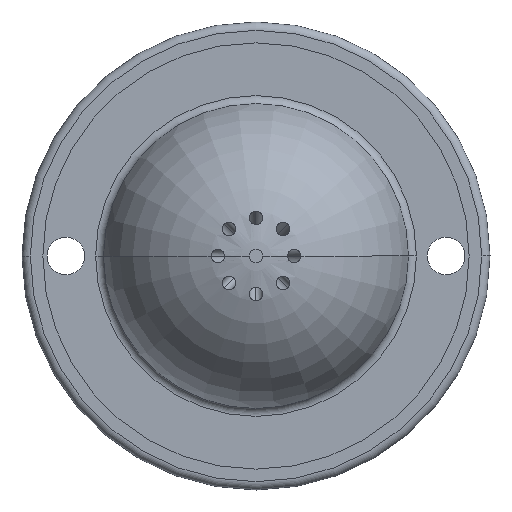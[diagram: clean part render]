
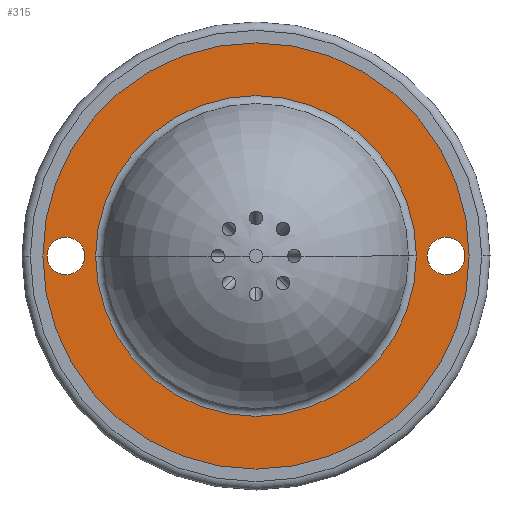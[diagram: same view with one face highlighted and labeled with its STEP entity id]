
A CAD part, front view. The second image highlights one B-rep face of the part: STEP entity #315.
In plain terms, the highlighted planar face has unit normal (0, -1, 0).
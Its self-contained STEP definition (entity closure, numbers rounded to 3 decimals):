
#21 = FACE_OUTER_BOUND ( 'NONE', #656, .T. ) ;
#24 = VERTEX_POINT ( 'NONE', #1108 ) ;
#68 = CIRCLE ( 'NONE', #421, 19.189 ) ;
#73 = VERTEX_POINT ( 'NONE', #370 ) ;
#76 = EDGE_CURVE ( 'NONE', #24, #894, #647, .T. ) ;
#77 = CARTESIAN_POINT ( 'NONE',  ( -19.189, 0.6, 0. ) ) ;
#85 = CIRCLE ( 'NONE', #963, 25.5 ) ;
#127 = EDGE_LOOP ( 'NONE', ( #857, #1448 ) ) ;
#146 = VERTEX_POINT ( 'NONE', #231 ) ;
#166 = DIRECTION ( 'NONE',  ( 0., 1., 0. ) ) ;
#171 = ORIENTED_EDGE ( 'NONE', *, *, #76, .T. ) ;
#202 = CARTESIAN_POINT ( 'NONE',  ( 22.75, 0.6, -2.25 ) ) ;
#231 = CARTESIAN_POINT ( 'NONE',  ( -25.5, 0.6, 0. ) ) ;
#233 = DIRECTION ( 'NONE',  ( 1., 0., 0. ) ) ;
#253 = CARTESIAN_POINT ( 'NONE',  ( 0., 0.6, 0. ) ) ;
#261 = ORIENTED_EDGE ( 'NONE', *, *, #620, .T. ) ;
#315 = ADVANCED_FACE ( 'NONE', ( #752, #343, #1436, #21 ), #1190, .T. ) ;
#343 = FACE_BOUND ( 'NONE', #1300, .T. ) ;
#351 = DIRECTION ( 'NONE',  ( 0., -1., 0. ) ) ;
#356 = DIRECTION ( 'NONE',  ( 1., 0., 0. ) ) ;
#366 = CIRCLE ( 'NONE', #494, 19.189 ) ;
#370 = CARTESIAN_POINT ( 'NONE',  ( -22.75, 0.6, 2.25 ) ) ;
#390 = DIRECTION ( 'NONE',  ( -1., 0., 0. ) ) ;
#421 = AXIS2_PLACEMENT_3D ( 'NONE', #1433, #619, #1576 ) ;
#422 = CARTESIAN_POINT ( 'NONE',  ( 22.75, 0.6, 0. ) ) ;
#433 = AXIS2_PLACEMENT_3D ( 'NONE', #1548, #728, #1681 ) ;
#494 = AXIS2_PLACEMENT_3D ( 'NONE', #253, #1222, #390 ) ;
#498 = ORIENTED_EDGE ( 'NONE', *, *, #756, .F. ) ;
#557 = CIRCLE ( 'NONE', #1207, 2.25 ) ;
#560 = DIRECTION ( 'NONE',  ( 1., 0., 0. ) ) ;
#584 = VERTEX_POINT ( 'NONE', #1101 ) ;
#594 = CARTESIAN_POINT ( 'NONE',  ( 0., 0.6, 0. ) ) ;
#619 = DIRECTION ( 'NONE',  ( 0., 1., 0. ) ) ;
#620 = EDGE_CURVE ( 'NONE', #894, #24, #1729, .T. ) ;
#623 = DIRECTION ( 'NONE',  ( 0., 1., 0. ) ) ;
#647 = CIRCLE ( 'NONE', #1454, 2.25 ) ;
#656 = EDGE_LOOP ( 'NONE', ( #498, #896 ) ) ;
#670 = EDGE_LOOP ( 'NONE', ( #875, #1480 ) ) ;
#691 = VERTEX_POINT ( 'NONE', #988 ) ;
#709 = DIRECTION ( 'NONE',  ( 0., 1., 0. ) ) ;
#728 = DIRECTION ( 'NONE',  ( 0., 1., 0. ) ) ;
#732 = DIRECTION ( 'NONE',  ( -1., 0., 0. ) ) ;
#752 = FACE_BOUND ( 'NONE', #127, .T. ) ;
#756 = EDGE_CURVE ( 'NONE', #146, #691, #1244, .T. ) ;
#857 = ORIENTED_EDGE ( 'NONE', *, *, #1221, .T. ) ;
#875 = ORIENTED_EDGE ( 'NONE', *, *, #1023, .T. ) ;
#894 = VERTEX_POINT ( 'NONE', #202 ) ;
#896 = ORIENTED_EDGE ( 'NONE', *, *, #1615, .F. ) ;
#963 = AXIS2_PLACEMENT_3D ( 'NONE', #594, #1552, #732 ) ;
#988 = CARTESIAN_POINT ( 'NONE',  ( 25.5, 0.6, 0. ) ) ;
#994 = CARTESIAN_POINT ( 'NONE',  ( -22.75, 0.6, 0. ) ) ;
#1023 = EDGE_CURVE ( 'NONE', #584, #1591, #366, .T. ) ;
#1101 = CARTESIAN_POINT ( 'NONE',  ( -19.189, 0.6, 0. ) ) ;
#1108 = CARTESIAN_POINT ( 'NONE',  ( 22.75, 0.6, 2.25 ) ) ;
#1135 = DIRECTION ( 'NONE',  ( 1., 0., 0. ) ) ;
#1142 = CARTESIAN_POINT ( 'NONE',  ( 19.189, 0.6, 0. ) ) ;
#1167 = EDGE_CURVE ( 'NONE', #1262, #73, #1648, .T. ) ;
#1190 = PLANE ( 'NONE',  #1422 ) ;
#1207 = AXIS2_PLACEMENT_3D ( 'NONE', #994, #166, #1135 ) ;
#1221 = EDGE_CURVE ( 'NONE', #73, #1262, #557, .T. ) ;
#1222 = DIRECTION ( 'NONE',  ( 0., 1., 0. ) ) ;
#1244 = CIRCLE ( 'NONE', #433, 25.5 ) ;
#1262 = VERTEX_POINT ( 'NONE', #1546 ) ;
#1300 = EDGE_LOOP ( 'NONE', ( #171, #261 ) ) ;
#1303 = AXIS2_PLACEMENT_3D ( 'NONE', #422, #1381, #560 ) ;
#1325 = EDGE_CURVE ( 'NONE', #1591, #584, #68, .T. ) ;
#1326 = AXIS2_PLACEMENT_3D ( 'NONE', #1524, #709, #1662 ) ;
#1381 = DIRECTION ( 'NONE',  ( 0., 1., 0. ) ) ;
#1422 = AXIS2_PLACEMENT_3D ( 'NONE', #77, #351, #356 ) ;
#1433 = CARTESIAN_POINT ( 'NONE',  ( 0., 0.6, 0. ) ) ;
#1436 = FACE_BOUND ( 'NONE', #670, .T. ) ;
#1437 = CARTESIAN_POINT ( 'NONE',  ( 22.75, 0.6, 0. ) ) ;
#1448 = ORIENTED_EDGE ( 'NONE', *, *, #1167, .T. ) ;
#1454 = AXIS2_PLACEMENT_3D ( 'NONE', #1437, #623, #233 ) ;
#1480 = ORIENTED_EDGE ( 'NONE', *, *, #1325, .T. ) ;
#1524 = CARTESIAN_POINT ( 'NONE',  ( -22.75, 0.6, 0. ) ) ;
#1546 = CARTESIAN_POINT ( 'NONE',  ( -22.75, 0.6, -2.25 ) ) ;
#1548 = CARTESIAN_POINT ( 'NONE',  ( 0., 0.6, 0. ) ) ;
#1552 = DIRECTION ( 'NONE',  ( 0., 1., 0. ) ) ;
#1576 = DIRECTION ( 'NONE',  ( -1., 0., 0. ) ) ;
#1591 = VERTEX_POINT ( 'NONE', #1142 ) ;
#1615 = EDGE_CURVE ( 'NONE', #691, #146, #85, .T. ) ;
#1648 = CIRCLE ( 'NONE', #1326, 2.25 ) ;
#1662 = DIRECTION ( 'NONE',  ( 1., 0., 0. ) ) ;
#1681 = DIRECTION ( 'NONE',  ( -1., 0., 0. ) ) ;
#1729 = CIRCLE ( 'NONE', #1303, 2.25 ) ;
